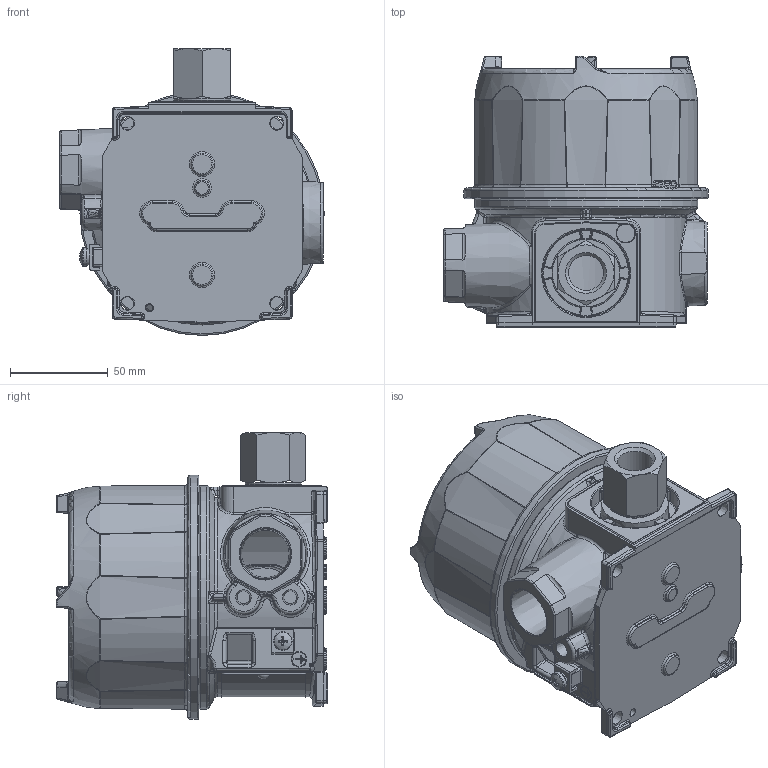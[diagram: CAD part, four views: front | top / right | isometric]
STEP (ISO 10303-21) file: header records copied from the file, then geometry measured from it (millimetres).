
FILE_DESCRIPTION (( 'STEP AP214' ), '1' );
FILE_NAME ('1X-P06_P20_ALLMODELS_V4.STEP', '2025-03-13T13:45:37', ( '' ), ( '' ), 'SwSTEP 2.0', 'SolidWorks 2023', '' );
FILE_SCHEMA (( 'AUTOMOTIVE_DESIGN' ));
Length unit declared in the file: inch
Products named in the file (1): 1X-P06_P20_ALLMODELS_V4
Bounding box: 135 x 138.46 x 146.51 mm (x, y, z)
Surface area: 101084.8 mm2 (no closed solid volume)
Topology: 0 solids, 20 shells, 1614 faces, 4838 edges, 3045 vertices
Faces by surface type: plane 670, bspline 445, cylinder 188, torus 167, cone 106, sphere 38
Full cylindrical faces by diameter (mm): 3.3 x1, 9.5 x1, 9.844 x1, 17.78 x1, 23.495 x1, 28.702 x1, 70.104 x1, 114.046 x1, 124.714 x1
Entity records: 77836 total; most frequent: CARTESIAN_POINT 39169, ORIENTED_EDGE 8173, DIRECTION 6861, EDGE_CURVE 4704, VERTEX_POINT 3019, VECTOR 2509, LINE 2509, AXIS2_PLACEMENT_3D 2176
